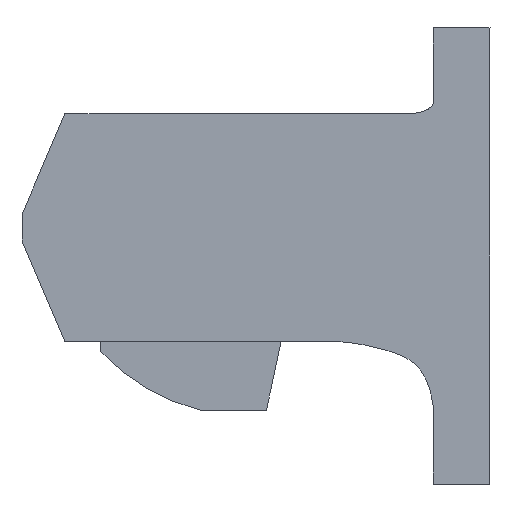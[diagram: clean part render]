
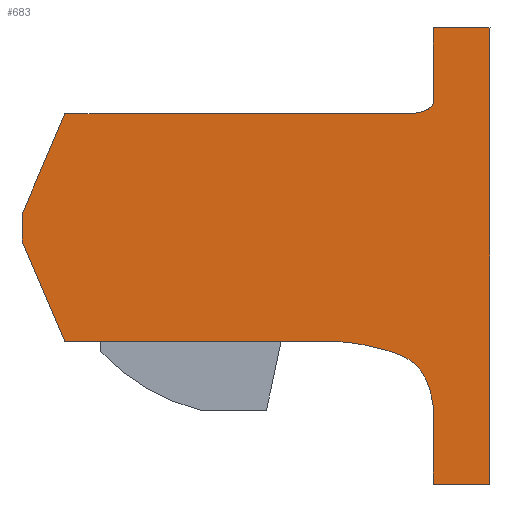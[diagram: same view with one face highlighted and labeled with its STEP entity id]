
A CAD part, left-side view. The second image highlights one B-rep face of the part: STEP entity #683.
In plain terms, the highlighted planar face has unit normal (-1, 0, 0).
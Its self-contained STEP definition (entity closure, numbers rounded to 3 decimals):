
#3 = VERTEX_POINT ( 'NONE', #796 ) ;
#12 = VERTEX_POINT ( 'NONE', #36 ) ;
#25 = VERTEX_POINT ( 'NONE', #117 ) ;
#30 = CARTESIAN_POINT ( 'NONE',  ( 9.35, -30.077, 41.492 ) ) ;
#36 = CARTESIAN_POINT ( 'NONE',  ( 9.35, -36.998, 49.042 ) ) ;
#38 = CARTESIAN_POINT ( 'NONE',  ( 9.35, 0.36, 21.493 ) ) ;
#44 = AXIS2_PLACEMENT_3D ( 'NONE', #361, #653, #555 ) ;
#45 = DIRECTION ( 'NONE',  ( 1., 0., 0. ) ) ;
#49 = CARTESIAN_POINT ( 'NONE',  ( 9.35, -30.414, 41.522 ) ) ;
#51 = CARTESIAN_POINT ( 'NONE',  ( 9.35, -30.077, 41.492 ) ) ;
#55 = CIRCLE ( 'NONE', #491, 0.492 ) ;
#85 = CARTESIAN_POINT ( 'NONE',  ( 9.35, -35.998, 21.492 ) ) ;
#99 = VECTOR ( 'NONE', #621, 1000. ) ;
#106 = EDGE_CURVE ( 'NONE', #787, #863, #746, .T. ) ;
#117 = CARTESIAN_POINT ( 'NONE',  ( 9.35, 4.137, 32.678 ) ) ;
#119 = LINE ( 'NONE', #690, #212 ) ;
#120 = DIRECTION ( 'NONE',  ( 0., -1., 0. ) ) ;
#125 = VECTOR ( 'NONE', #829, 1000. ) ;
#133 = CARTESIAN_POINT ( 'NONE',  ( 9.35, -31.997, 28.992 ) ) ;
#137 = VERTEX_POINT ( 'NONE', #553 ) ;
#141 = VECTOR ( 'NONE', #546, 1000. ) ;
#146 = LINE ( 'NONE', #294, #99 ) ;
#148 = ORIENTED_EDGE ( 'NONE', *, *, #743, .F. ) ;
#154 = EDGE_CURVE ( 'NONE', #3, #137, #272, .T. ) ;
#165 = CARTESIAN_POINT ( 'NONE',  ( 9.35, -31.255, 41.735 ) ) ;
#168 = EDGE_CURVE ( 'NONE', #426, #520, #757, .T. ) ;
#212 = VECTOR ( 'NONE', #686, 1000. ) ;
#215 = CARTESIAN_POINT ( 'NONE',  ( 9.35, 4.137, 32.678 ) ) ;
#223 = ORIENTED_EDGE ( 'NONE', *, *, #369, .F. ) ;
#235 = ORIENTED_EDGE ( 'NONE', *, *, #772, .F. ) ;
#241 = ORIENTED_EDGE ( 'NONE', *, *, #883, .F. ) ;
#250 = DIRECTION ( 'NONE',  ( 0., 0., 1. ) ) ;
#257 = LINE ( 'NONE', #399, #141 ) ;
#260 = CARTESIAN_POINT ( 'NONE',  ( 9.35, 4.137, 28.992 ) ) ;
#262 = VECTOR ( 'NONE', #844, 1000. ) ;
#272 = LINE ( 'NONE', #133, #125 ) ;
#280 = FACE_OUTER_BOUND ( 'NONE', #647, .T. ) ;
#284 = PLANE ( 'NONE',  #44 ) ;
#288 = DIRECTION ( 'NONE',  ( 0., -0.394, 0.919 ) ) ;
#294 = CARTESIAN_POINT ( 'NONE',  ( 9.35, -35.998, 49.042 ) ) ;
#298 = ORIENTED_EDGE ( 'NONE', *, *, #525, .F. ) ;
#313 = VERTEX_POINT ( 'NONE', #644 ) ;
#320 = CARTESIAN_POINT ( 'NONE',  ( 9.35, -31.862, 42.154 ) ) ;
#328 = CARTESIAN_POINT ( 'NONE',  ( 9.35, -26.996, 21.017 ) ) ;
#330 = CARTESIAN_POINT ( 'NONE',  ( 9.35, -31.998, 42.492 ) ) ;
#335 = DIRECTION ( 'NONE',  ( 0., 0., 1. ) ) ;
#342 = VERTEX_POINT ( 'NONE', #38 ) ;
#356 = ORIENTED_EDGE ( 'NONE', *, *, #168, .F. ) ;
#361 = CARTESIAN_POINT ( 'NONE',  ( 9.35, -35.998, 28.992 ) ) ;
#369 = EDGE_CURVE ( 'NONE', #863, #313, #656, .T. ) ;
#375 = CARTESIAN_POINT ( 'NONE',  ( 9.35, -31.808, 42.08 ) ) ;
#386 = EDGE_CURVE ( 'NONE', #426, #313, #55, .T. ) ;
#392 = VECTOR ( 'NONE', #120, 1000. ) ;
#393 = CARTESIAN_POINT ( 'NONE',  ( 9.35, -31.859, 17.06 ) ) ;
#399 = CARTESIAN_POINT ( 'NONE',  ( 9.35, -36.998, 28.992 ) ) ;
#401 = CARTESIAN_POINT ( 'NONE',  ( 9.35, -22.997, 21.492 ) ) ;
#408 = CARTESIAN_POINT ( 'NONE',  ( 9.35, -22.997, 21.492 ) ) ;
#413 = CARTESIAN_POINT ( 'NONE',  ( 9.35, 0.36, 21.493 ) ) ;
#426 = VERTEX_POINT ( 'NONE', #330 ) ;
#452 = ORIENTED_EDGE ( 'NONE', *, *, #768, .F. ) ;
#468 = CARTESIAN_POINT ( 'NONE',  ( 9.35, -36.997, 8.942 ) ) ;
#485 = CARTESIAN_POINT ( 'NONE',  ( 9.35, -35.998, 41.493 ) ) ;
#491 = AXIS2_PLACEMENT_3D ( 'NONE', #799, #45, #513 ) ;
#500 = ORIENTED_EDGE ( 'NONE', *, *, #386, .T. ) ;
#505 = ORIENTED_EDGE ( 'NONE', *, *, #810, .F. ) ;
#513 = DIRECTION ( 'NONE',  ( 0., 0., -1. ) ) ;
#520 = VERTEX_POINT ( 'NONE', #675 ) ;
#521 = CARTESIAN_POINT ( 'NONE',  ( 9.35, -31.463, 41.814 ) ) ;
#525 = EDGE_CURVE ( 'NONE', #566, #3, #119, .T. ) ;
#529 = CARTESIAN_POINT ( 'NONE',  ( 9.35, -31.997, 15.866 ) ) ;
#534 = EDGE_CURVE ( 'NONE', #12, #566, #257, .T. ) ;
#536 = VERTEX_POINT ( 'NONE', #408 ) ;
#546 = DIRECTION ( 'NONE',  ( 0., 0., -1. ) ) ;
#553 = CARTESIAN_POINT ( 'NONE',  ( 9.35, -31.997, 15.866 ) ) ;
#555 = DIRECTION ( 'NONE',  ( 0., 0., -1. ) ) ;
#566 = VERTEX_POINT ( 'NONE', #468 ) ;
#574 = ORIENTED_EDGE ( 'NONE', *, *, #601, .F. ) ;
#580 = ORIENTED_EDGE ( 'NONE', *, *, #534, .F. ) ;
#598 = CARTESIAN_POINT ( 'NONE',  ( 9.35, -30.782, 41.593 ) ) ;
#601 = EDGE_CURVE ( 'NONE', #342, #755, #745, .T. ) ;
#604 = CARTESIAN_POINT ( 'NONE',  ( 9.35, -24.442, 21.492 ) ) ;
#621 = DIRECTION ( 'NONE',  ( 0., -1., 0. ) ) ;
#631 = VECTOR ( 'NONE', #335, 1000. ) ;
#644 = CARTESIAN_POINT ( 'NONE',  ( 9.35, -31.862, 42.154 ) ) ;
#647 = EDGE_LOOP ( 'NONE', ( #356, #500, #223, #674, #148, #241, #574, #235, #505, #685, #298, #580, #452 ) ) ;
#653 = DIRECTION ( 'NONE',  ( 1., 0., 0. ) ) ;
#656 = B_SPLINE_CURVE_WITH_KNOTS ( 'NONE', 3,
 ( #30, #49, #598, #165, #521, #664, #375, #320 ),
 .UNSPECIFIED., .F., .F.,
 ( 4, 1, 1, 1, 1, 4 ),
 ( 0., 0.001, 0.001, 0.001, 0.002, 0.002 ),
 .UNSPECIFIED. ) ;
#660 = LINE ( 'NONE', #260, #821 ) ;
#664 = CARTESIAN_POINT ( 'NONE',  ( 9.35, -31.696, 41.969 ) ) ;
#674 = ORIENTED_EDGE ( 'NONE', *, *, #106, .F. ) ;
#675 = CARTESIAN_POINT ( 'NONE',  ( 9.35, -31.998, 49.042 ) ) ;
#676 = CARTESIAN_POINT ( 'NONE',  ( 9.35, -31.998, 28.992 ) ) ;
#683 = ADVANCED_FACE ( 'NONE', ( #280 ), #284, .F. ) ;
#685 = ORIENTED_EDGE ( 'NONE', *, *, #154, .F. ) ;
#686 = DIRECTION ( 'NONE',  ( 0., 1., 0. ) ) ;
#690 = CARTESIAN_POINT ( 'NONE',  ( 9.35, -35.998, 8.942 ) ) ;
#743 = EDGE_CURVE ( 'NONE', #25, #787, #833, .T. ) ;
#745 = LINE ( 'NONE', #413, #835 ) ;
#746 = LINE ( 'NONE', #485, #392 ) ;
#755 = VERTEX_POINT ( 'NONE', #760 ) ;
#757 = LINE ( 'NONE', #676, #631 ) ;
#759 = B_SPLINE_CURVE_WITH_KNOTS ( 'NONE', 3,
 ( #529, #393, #879, #328, #604, #401 ),
 .UNSPECIFIED., .F., .F.,
 ( 4, 1, 1, 4 ),
 ( 0., 0.004, 0.007, 0.012 ),
 .UNSPECIFIED. ) ;
#760 = CARTESIAN_POINT ( 'NONE',  ( 9.35, 4.137, 30.308 ) ) ;
#768 = EDGE_CURVE ( 'NONE', #520, #12, #146, .T. ) ;
#772 = EDGE_CURVE ( 'NONE', #536, #342, #773, .T. ) ;
#773 = LINE ( 'NONE', #85, #262 ) ;
#787 = VERTEX_POINT ( 'NONE', #790 ) ;
#790 = CARTESIAN_POINT ( 'NONE',  ( 9.35, 0.36, 41.493 ) ) ;
#796 = CARTESIAN_POINT ( 'NONE',  ( 9.35, -31.997, 8.942 ) ) ;
#799 = CARTESIAN_POINT ( 'NONE',  ( 9.35, -31.506, 42.492 ) ) ;
#810 = EDGE_CURVE ( 'NONE', #137, #536, #759, .T. ) ;
#821 = VECTOR ( 'NONE', #250, 1000. ) ;
#829 = DIRECTION ( 'NONE',  ( 0., 0., 1. ) ) ;
#833 = LINE ( 'NONE', #215, #853 ) ;
#835 = VECTOR ( 'NONE', #889, 1000. ) ;
#844 = DIRECTION ( 'NONE',  ( 0., 1., 0. ) ) ;
#853 = VECTOR ( 'NONE', #288, 1000. ) ;
#863 = VERTEX_POINT ( 'NONE', #51 ) ;
#879 = CARTESIAN_POINT ( 'NONE',  ( 9.35, -31.024, 19.796 ) ) ;
#883 = EDGE_CURVE ( 'NONE', #755, #25, #660, .T. ) ;
#889 = DIRECTION ( 'NONE',  ( 0., 0.394, 0.919 ) ) ;
